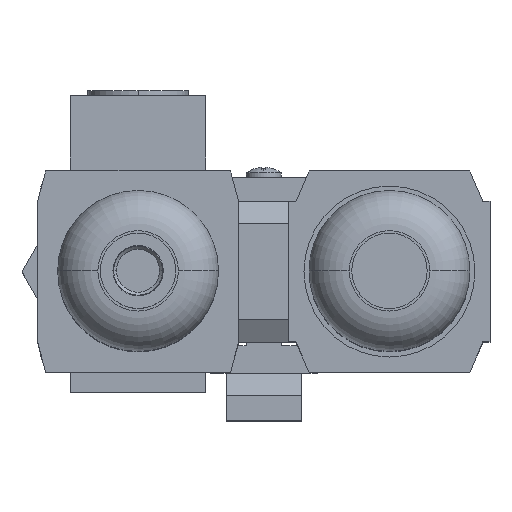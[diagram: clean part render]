
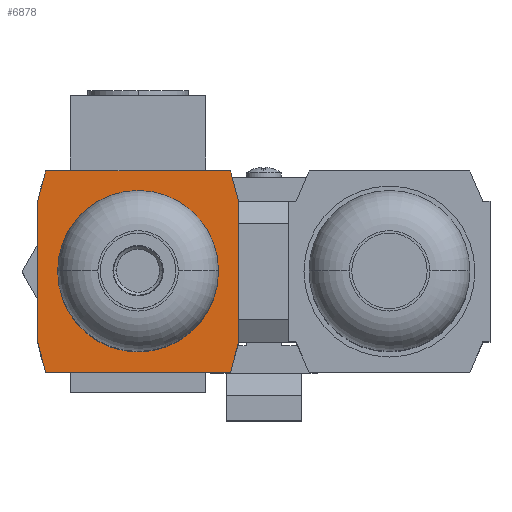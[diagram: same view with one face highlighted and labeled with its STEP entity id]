
A CAD part, top view. The second image highlights one B-rep face of the part: STEP entity #6878.
In plain terms, the highlighted planar face has unit normal (0, 0, 1).
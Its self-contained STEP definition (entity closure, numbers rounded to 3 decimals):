
#90 = VECTOR ( 'NONE', #11838, 1000. ) ;
#154 = CARTESIAN_POINT ( 'NONE',  ( -18.39, 20., 0. ) ) ;
#230 = CARTESIAN_POINT ( 'NONE',  ( 18.39, 20., 0. ) ) ;
#233 = VERTEX_POINT ( 'NONE', #1057 ) ;
#235 = LINE ( 'NONE', #154, #11048 ) ;
#808 = FACE_OUTER_BOUND ( 'NONE', #15040, .T. ) ;
#847 = CARTESIAN_POINT ( 'NONE',  ( 0., 0., 0. ) ) ;
#990 = LINE ( 'NONE', #4679, #5528 ) ;
#1057 = CARTESIAN_POINT ( 'NONE',  ( 20., 14., 0. ) ) ;
#1413 = EDGE_CURVE ( 'NONE', #12081, #3529, #4735, .T. ) ;
#1643 = DIRECTION ( 'NONE',  ( -1., 0., 0. ) ) ;
#1657 = VECTOR ( 'NONE', #11463, 1000. ) ;
#1725 = ORIENTED_EDGE ( 'NONE', *, *, #3932, .F. ) ;
#2224 = EDGE_LOOP ( 'NONE', ( #11369, #10225 ) ) ;
#2239 = DIRECTION ( 'NONE',  ( 0., 0., -1. ) ) ;
#2517 = EDGE_CURVE ( 'NONE', #14716, #2634, #6416, .T. ) ;
#2632 = EDGE_CURVE ( 'NONE', #3529, #12081, #13901, .T. ) ;
#2634 = VERTEX_POINT ( 'NONE', #3332 ) ;
#2750 = VERTEX_POINT ( 'NONE', #230 ) ;
#3332 = CARTESIAN_POINT ( 'NONE',  ( 18.39, -20., 0. ) ) ;
#3381 = CARTESIAN_POINT ( 'NONE',  ( 18.39, 20., 0. ) ) ;
#3529 = VERTEX_POINT ( 'NONE', #3715 ) ;
#3715 = CARTESIAN_POINT ( 'NONE',  ( 15., 0., 0. ) ) ;
#3932 = EDGE_CURVE ( 'NONE', #11676, #13671, #9629, .T. ) ;
#3984 = FACE_BOUND ( 'NONE', #2224, .T. ) ;
#4175 = DIRECTION ( 'NONE',  ( -0.259, -0.966, 0. ) ) ;
#4215 = VECTOR ( 'NONE', #11704, 1000. ) ;
#4473 = CARTESIAN_POINT ( 'NONE',  ( -15., 0., 0. ) ) ;
#4679 = CARTESIAN_POINT ( 'NONE',  ( 20., 14., 0. ) ) ;
#4735 = CIRCLE ( 'NONE', #11130, 15. ) ;
#5240 = VECTOR ( 'NONE', #6242, 1000. ) ;
#5315 = EDGE_CURVE ( 'NONE', #13671, #6479, #5553, .T. ) ;
#5346 = ORIENTED_EDGE ( 'NONE', *, *, #11087, .F. ) ;
#5388 = VERTEX_POINT ( 'NONE', #10556 ) ;
#5528 = VECTOR ( 'NONE', #12852, 1000. ) ;
#5553 = LINE ( 'NONE', #9388, #4215 ) ;
#5878 = ORIENTED_EDGE ( 'NONE', *, *, #14428, .F. ) ;
#6242 = DIRECTION ( 'NONE',  ( 0., 1., 0. ) ) ;
#6416 = LINE ( 'NONE', #13504, #7260 ) ;
#6479 = VERTEX_POINT ( 'NONE', #9461 ) ;
#6517 = VECTOR ( 'NONE', #1643, 1000. ) ;
#6628 = CARTESIAN_POINT ( 'NONE',  ( -20., 14., 0. ) ) ;
#6731 = CARTESIAN_POINT ( 'NONE',  ( -20., -14., 0. ) ) ;
#6878 = ADVANCED_FACE ( 'NONE', ( #808, #3984 ), #14536, .F. ) ;
#6938 = ORIENTED_EDGE ( 'NONE', *, *, #2517, .F. ) ;
#7260 = VECTOR ( 'NONE', #4175, 1000. ) ;
#7365 = CARTESIAN_POINT ( 'NONE',  ( 18.39, -20., 0. ) ) ;
#7862 = EDGE_CURVE ( 'NONE', #6479, #2750, #235, .T. ) ;
#8218 = LINE ( 'NONE', #10333, #90 ) ;
#8686 = CARTESIAN_POINT ( 'NONE',  ( 0., 0., 0. ) ) ;
#8791 = AXIS2_PLACEMENT_3D ( 'NONE', #8686, #13382, #12843 ) ;
#9109 = DIRECTION ( 'NONE',  ( 0., 0., -1. ) ) ;
#9253 = DIRECTION ( 'NONE',  ( 1., 0., 0. ) ) ;
#9388 = CARTESIAN_POINT ( 'NONE',  ( -20., 14., 0. ) ) ;
#9461 = CARTESIAN_POINT ( 'NONE',  ( -18.39, 20., 0. ) ) ;
#9629 = LINE ( 'NONE', #14324, #5240 ) ;
#9688 = EDGE_CURVE ( 'NONE', #2750, #233, #13929, .T. ) ;
#10225 = ORIENTED_EDGE ( 'NONE', *, *, #2632, .T. ) ;
#10333 = CARTESIAN_POINT ( 'NONE',  ( -18.39, -20., 0. ) ) ;
#10556 = CARTESIAN_POINT ( 'NONE',  ( -18.39, -20., 0. ) ) ;
#11048 = VECTOR ( 'NONE', #12182, 1000. ) ;
#11087 = EDGE_CURVE ( 'NONE', #5388, #11676, #8218, .T. ) ;
#11130 = AXIS2_PLACEMENT_3D ( 'NONE', #12729, #2239, #9253 ) ;
#11369 = ORIENTED_EDGE ( 'NONE', *, *, #1413, .T. ) ;
#11432 = ORIENTED_EDGE ( 'NONE', *, *, #13940, .F. ) ;
#11434 = CARTESIAN_POINT ( 'NONE',  ( 20., -14., 0. ) ) ;
#11463 = DIRECTION ( 'NONE',  ( 0.259, -0.966, 0. ) ) ;
#11646 = DIRECTION ( 'NONE',  ( 1., 0., 0. ) ) ;
#11676 = VERTEX_POINT ( 'NONE', #6731 ) ;
#11704 = DIRECTION ( 'NONE',  ( 0.259, 0.966, 0. ) ) ;
#11838 = DIRECTION ( 'NONE',  ( -0.259, 0.966, 0. ) ) ;
#12081 = VERTEX_POINT ( 'NONE', #4473 ) ;
#12182 = DIRECTION ( 'NONE',  ( 1., 0., 0. ) ) ;
#12210 = LINE ( 'NONE', #7365, #6517 ) ;
#12729 = CARTESIAN_POINT ( 'NONE',  ( 0., 0., 0. ) ) ;
#12827 = ORIENTED_EDGE ( 'NONE', *, *, #5315, .F. ) ;
#12843 = DIRECTION ( 'NONE',  ( 1., 0., 0. ) ) ;
#12852 = DIRECTION ( 'NONE',  ( 0., -1., 0. ) ) ;
#13382 = DIRECTION ( 'NONE',  ( 0., 0., -1. ) ) ;
#13504 = CARTESIAN_POINT ( 'NONE',  ( 20., -14., 0. ) ) ;
#13671 = VERTEX_POINT ( 'NONE', #6628 ) ;
#13901 = CIRCLE ( 'NONE', #14135, 15. ) ;
#13929 = LINE ( 'NONE', #3381, #1657 ) ;
#13940 = EDGE_CURVE ( 'NONE', #233, #14716, #990, .T. ) ;
#14135 = AXIS2_PLACEMENT_3D ( 'NONE', #847, #9109, #11646 ) ;
#14260 = ORIENTED_EDGE ( 'NONE', *, *, #9688, .F. ) ;
#14324 = CARTESIAN_POINT ( 'NONE',  ( -20., -14., 0. ) ) ;
#14428 = EDGE_CURVE ( 'NONE', #2634, #5388, #12210, .T. ) ;
#14536 = PLANE ( 'NONE',  #8791 ) ;
#14716 = VERTEX_POINT ( 'NONE', #11434 ) ;
#14746 = ORIENTED_EDGE ( 'NONE', *, *, #7862, .F. ) ;
#15040 = EDGE_LOOP ( 'NONE', ( #1725, #5346, #5878, #6938, #11432, #14260, #14746, #12827 ) ) ;
